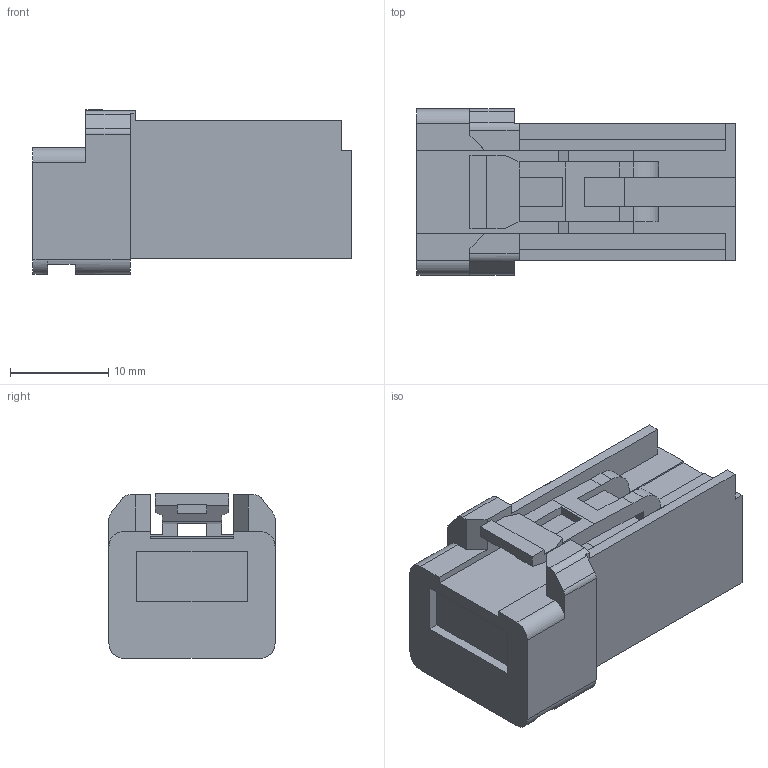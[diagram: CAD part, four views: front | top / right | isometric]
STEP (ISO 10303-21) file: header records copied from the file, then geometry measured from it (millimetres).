
FILE_DESCRIPTION(('CATIA V5 STEP Exchange','CAx-IF Rec.Pracs.--- Model Styling and Organization---1.2---2011-12-15'),'2;1');
FILE_NAME('\\Fss01.ad.sws.co.jp\fs030008\技術管理部\個人\中田\カタログ３D関係\(HE) 3Dcatalog stepfile\追加\9.5\6098-4974.stp','2016-06-28T01:47:57+00:00',('none'),('none'),'CATIA Version 5-6 Release 2012 SP4 HF74','CATIA V5 STEP AP214','none');
FILE_SCHEMA(('AUTOMOTIVE_DESIGN { 1 0 10303 214 1 1 1 1 }'));
Length unit declared in the file: millimetre
Products named in the file (1): 6098-4974
Bounding box: 32.4 x 16.9 x 16.75 mm (x, y, z)
Volume: 5888 mm3; surface area: 2945 mm2
Topology: 1 solids, 1 shells, 94 faces, 276 edges, 182 vertices
Faces by surface type: plane 82, cylinder 12
Entity records: 3010 total; most frequent: ORIENTED_EDGE 552, CARTESIAN_POINT 540, DIRECTION 435, EDGE_CURVE 276, VECTOR 247, LINE 247, VERTEX_POINT 182, AXIS2_PLACEMENT_3D 109
